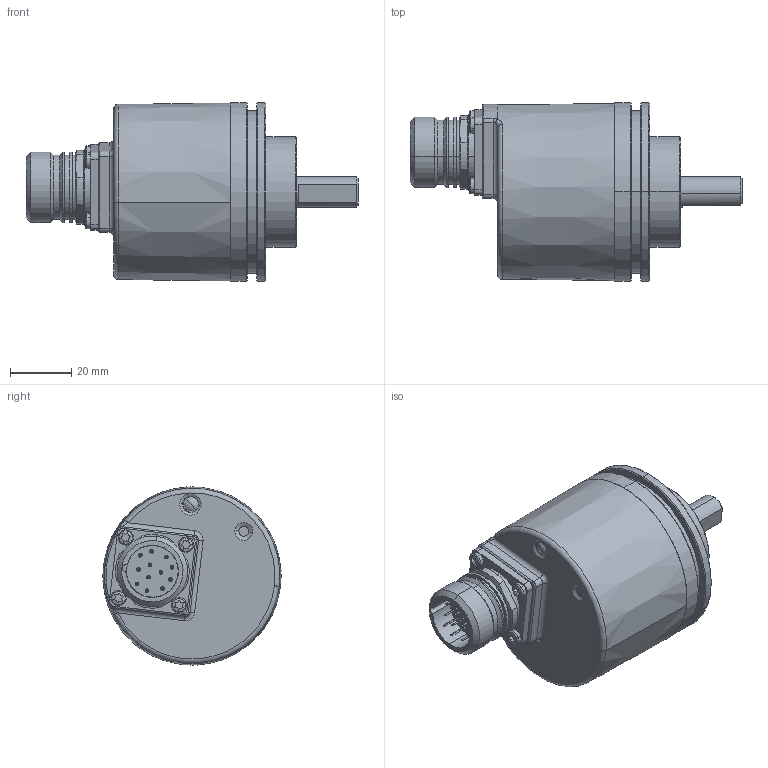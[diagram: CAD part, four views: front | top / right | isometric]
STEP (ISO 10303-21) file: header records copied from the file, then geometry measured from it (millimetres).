
FILE_DESCRIPTION (( 'STEP AP214' ), '1' );
FILE_NAME ('5863SIL.12X3.XXXX.STEP', '2010-11-03T07:39:58', ( 'admin' ), ( 'Fritz Kübler GmbH' ), 'SwSTEP 2.0', 'SolidWorks 2009', '' );
FILE_SCHEMA (( 'AUTOMOTIVE_DESIGN' ));
Length unit declared in the file: millimetre
Products named in the file (1): 5863SIL.12X3.XXXX
Bounding box: 108 x 58 x 58 mm (x, y, z)
Surface area: 24036.8 mm2 (no closed solid volume)
Topology: 0 solids, 29 shells, 327 faces, 855 edges, 540 vertices
Faces by surface type: cylinder 134, plane 86, cone 43, sphere 34, torus 26, bspline 4
Entity records: 14215 total; most frequent: CARTESIAN_POINT 2356, DIRECTION 1964, ORIENTED_EDGE 1506, EDGE_CURVE 831, AXIS2_PLACEMENT_3D 831, VERTEX_POINT 540, CIRCLE 507, EDGE_LOOP 374
